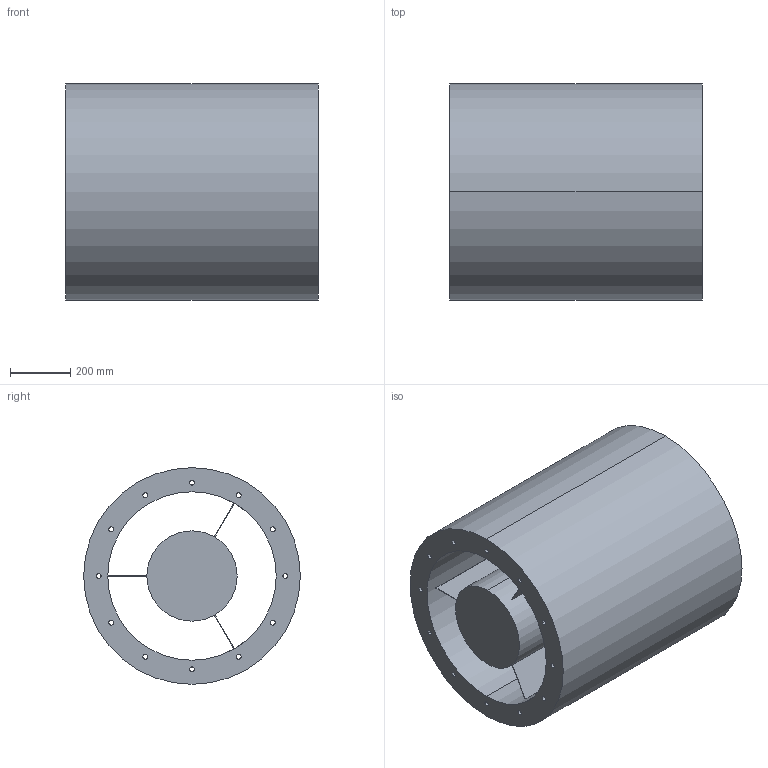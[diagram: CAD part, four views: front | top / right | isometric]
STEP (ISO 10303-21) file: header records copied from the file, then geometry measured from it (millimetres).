
FILE_DESCRIPTION(('STEP AP214'),'1');
FILE_NAME('accessory_5211814300.stp','2017-10-09T11:38:10',('TraceParts'),('TraceParts S.A.'),'Spatial InterOp 3D',' ',' ');
FILE_SCHEMA(('automotive_design'));
Length unit declared in the file: millimetre
Products named in the file (1): accessory_5211814300
Bounding box: 840 x 720 x 720 mm (x, y, z)
Volume: 186277342.8 mm3; surface area: 5489081 mm2
Topology: 1 solids, 1 shells, 48 faces, 131 edges, 87 vertices
Faces by surface type: cylinder 30, plane 16, torus 2
Entity records: 2024 total; most frequent: DIRECTION 306, CARTESIAN_POINT 267, ORIENTED_EDGE 262, EDGE_CURVE 131, AXIS2_PLACEMENT_3D 126, VERTEX_POINT 87, EDGE_LOOP 80, CIRCLE 77
